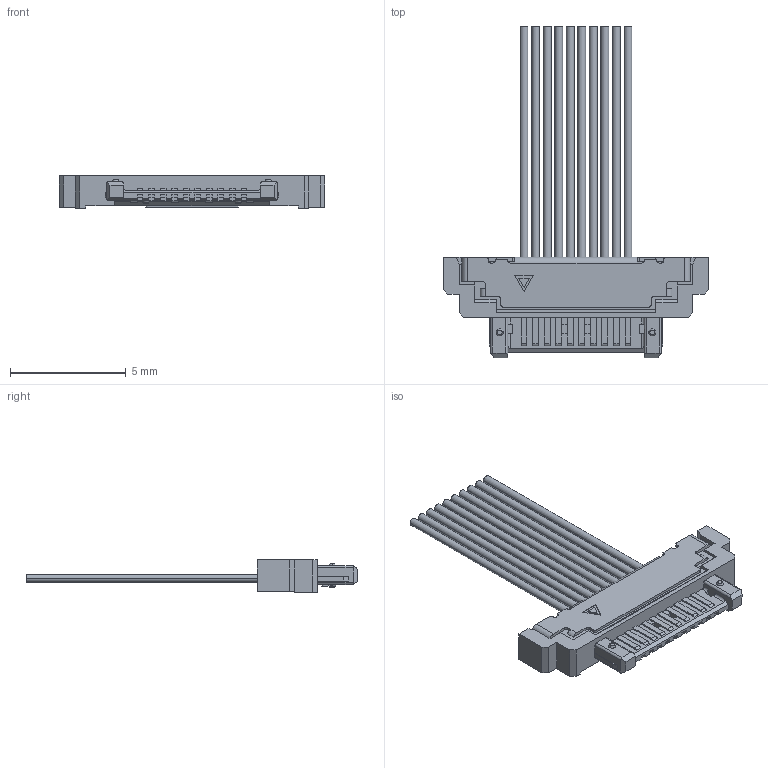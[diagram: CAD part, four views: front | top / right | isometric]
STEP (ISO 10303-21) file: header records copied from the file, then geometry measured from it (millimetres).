
FILE_DESCRIPTION(('Creo Elements/Direct Modeling STEP Export'),'2;1');
FILE_NAME('P3A798_SSL20-10SB.stp','2022-01-13T10:07:17',(''),(''),'Creo Elements/Direct Modeling STEP processor for AP214 (Solid Model)','Creo Elements/Direct Modeling 20.2 28-Feb-2019 (C) Parametric Technology GmbH','');
FILE_SCHEMA(('AUTOMOTIVE_DESIGN { 1 0 10303 214 1 1 1 1 }'));
Length unit declared in the file: millimetre
Products named in the file (2): P3A798_SSL20-10SB
Assembly tree (1 placements, depth 2):
  P3A798_SSL20-10SB
    P3A798_SSL20-10SB
Bounding box: 11.5 x 14.35 x 1.4 mm (x, y, z)
Volume: 51.1 mm3; surface area: 240.5 mm2
Topology: 1 solids, 1 shells, 426 faces, 1157 edges, 758 vertices
Faces by surface type: plane 331, cylinder 83, cone 8, torus 4
Entity records: 13143 total; most frequent: ORIENTED_EDGE 2314, CARTESIAN_POINT 2305, DIRECTION 2144, EDGE_CURVE 1157, VECTOR 950, LINE 950, VERTEX_POINT 758, AXIS2_PLACEMENT_3D 597
